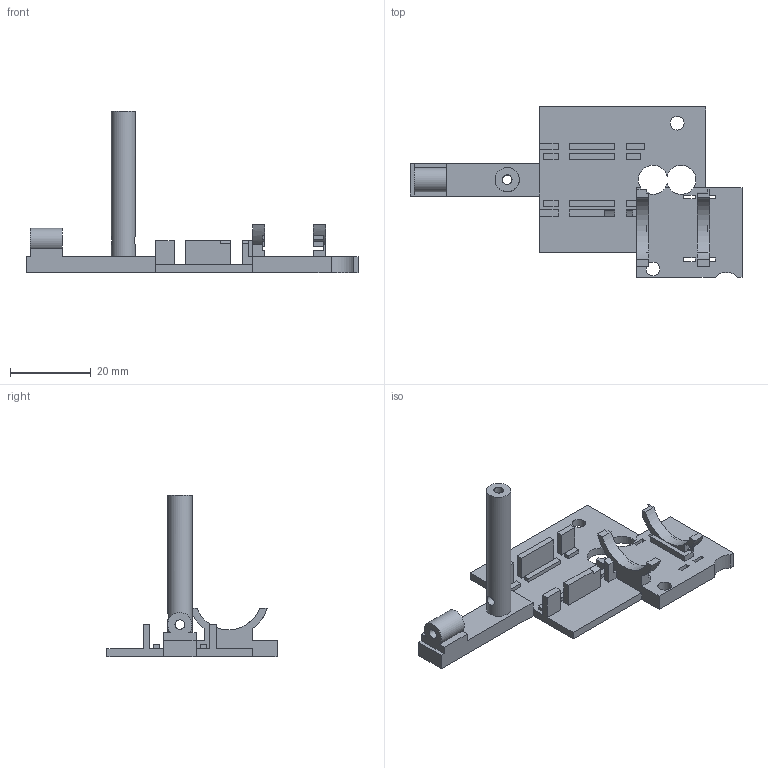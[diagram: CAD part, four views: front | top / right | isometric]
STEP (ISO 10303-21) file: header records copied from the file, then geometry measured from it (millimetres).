
FILE_DESCRIPTION(('FreeCAD Model'),'2;1');
FILE_NAME('Open CASCADE Shape Model','2026-10-23T15:45:23',('FreeCAD'),( 'FreeCAD'),'Open CASCADE STEP processor 7.8','FreeCAD','Unknown');
FILE_SCHEMA(('AUTOMOTIVE_DESIGN { 1 0 10303 214 1 1 1 1 }'));
Length unit declared in the file: millimetre
Products named in the file (1): Open CASCADE STEP translator 7.8 4
Bounding box: 82 x 42 x 40 mm (x, y, z)
Volume: 7119.7 mm3; surface area: 7411.3 mm2
Topology: 1 solids, 1 shells, 161 faces, 469 edges, 316 vertices
Faces by surface type: plane 137, cylinder 24
Full cylindrical faces by diameter (mm): 1.8 x2, 2.4 x5, 3.4 x2, 6 x1
Entity records: 5855 total; most frequent: CARTESIAN_POINT 1459, ORIENTED_EDGE 938, DIRECTION 860, EDGE_CURVE 469, LINE 384, VECTOR 384, VERTEX_POINT 316, AXIS2_PLACEMENT_3D 238
